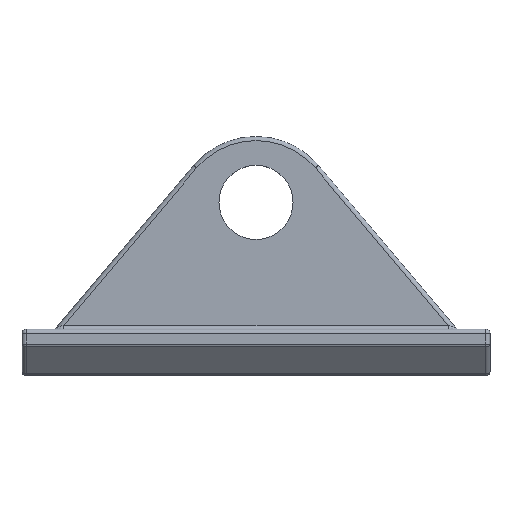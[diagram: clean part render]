
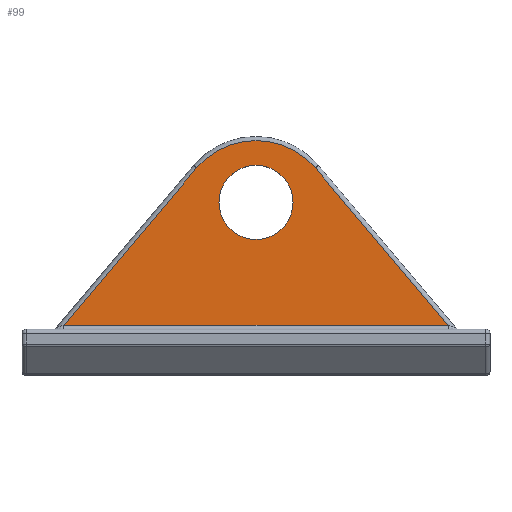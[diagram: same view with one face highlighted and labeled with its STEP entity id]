
A CAD part, top view. The second image highlights one B-rep face of the part: STEP entity #99.
In plain terms, the highlighted planar face has unit normal (0, 0, 1).
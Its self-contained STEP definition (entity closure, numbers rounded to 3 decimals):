
#77 = VERTEX_POINT ( 'NONE', #888 ) ;
#99 = ADVANCED_FACE ( 'NONE', ( #796, #1324 ), #530, .F. ) ;
#112 = LINE ( 'NONE', #1684, #513 ) ;
#173 = CARTESIAN_POINT ( 'NONE',  ( 23.9, 15.4, 2.8 ) ) ;
#234 = LINE ( 'NONE', #492, #569 ) ;
#256 = CIRCLE ( 'NONE', #503, 9.457 ) ;
#259 = VERTEX_POINT ( 'NONE', #173 ) ;
#333 = DIRECTION ( 'NONE',  ( 1., 0., 0. ) ) ;
#403 = AXIS2_PLACEMENT_3D ( 'NONE', #943, #820, #1086 ) ;
#412 = EDGE_CURVE ( 'NONE', #1368, #1284, #234, .T. ) ;
#427 = CARTESIAN_POINT ( 'NONE',  ( 15.918, 13.326, 2.8 ) ) ;
#436 = DIRECTION ( 'NONE',  ( -1., 0., 0. ) ) ;
#458 = ORIENTED_EDGE ( 'NONE', *, *, #1651, .T. ) ;
#481 = ORIENTED_EDGE ( 'NONE', *, *, #531, .F. ) ;
#492 = CARTESIAN_POINT ( 'NONE',  ( 52.8, 0.5, 2.8 ) ) ;
#503 = AXIS2_PLACEMENT_3D ( 'NONE', #1400, #1615, #436 ) ;
#513 = VECTOR ( 'NONE', #1565, 1000. ) ;
#530 = PLANE ( 'NONE',  #403 ) ;
#531 = EDGE_CURVE ( 'NONE', #77, #259, #1691, .T. ) ;
#541 = DIRECTION ( 'NONE',  ( 0., 0., 1. ) ) ;
#569 = VECTOR ( 'NONE', #333, 1000. ) ;
#587 = ORIENTED_EDGE ( 'NONE', *, *, #1371, .T. ) ;
#604 = EDGE_LOOP ( 'NONE', ( #1418, #587, #458, #1630 ) ) ;
#622 = CARTESIAN_POINT ( 'NONE',  ( 5.077, 0.5, 2.8 ) ) ;
#669 = DIRECTION ( 'NONE',  ( 1., 0., 0. ) ) ;
#775 = CARTESIAN_POINT ( 'NONE',  ( 51.723, 0.5, 2.8 ) ) ;
#783 = CARTESIAN_POINT ( 'NONE',  ( 28.4, 15.4, 2.8 ) ) ;
#796 = FACE_OUTER_BOUND ( 'NONE', #604, .T. ) ;
#820 = DIRECTION ( 'NONE',  ( 0., 0., -1. ) ) ;
#888 = CARTESIAN_POINT ( 'NONE',  ( 32.9, 15.4, 2.8 ) ) ;
#920 = CIRCLE ( 'NONE', #1512, 4.5 ) ;
#934 = CARTESIAN_POINT ( 'NONE',  ( 28.4, 15.4, 2.8 ) ) ;
#943 = CARTESIAN_POINT ( 'NONE',  ( 4., 23.4, 2.8 ) ) ;
#952 = EDGE_CURVE ( 'NONE', #259, #77, #920, .T. ) ;
#953 = CARTESIAN_POINT ( 'NONE',  ( 21.202, 19.576, 2.8 ) ) ;
#959 = DIRECTION ( 'NONE',  ( -0.646, -0.764, 0. ) ) ;
#966 = AXIS2_PLACEMENT_3D ( 'NONE', #934, #1451, #1435 ) ;
#1086 = DIRECTION ( 'NONE',  ( -1., 0., 0. ) ) ;
#1092 = LINE ( 'NONE', #427, #1608 ) ;
#1128 = VERTEX_POINT ( 'NONE', #1576 ) ;
#1155 = VERTEX_POINT ( 'NONE', #953 ) ;
#1284 = VERTEX_POINT ( 'NONE', #775 ) ;
#1324 = FACE_BOUND ( 'NONE', #1696, .T. ) ;
#1368 = VERTEX_POINT ( 'NONE', #622 ) ;
#1371 = EDGE_CURVE ( 'NONE', #1284, #1128, #112, .T. ) ;
#1400 = CARTESIAN_POINT ( 'NONE',  ( 28.4, 13.443, 2.8 ) ) ;
#1418 = ORIENTED_EDGE ( 'NONE', *, *, #412, .T. ) ;
#1420 = EDGE_CURVE ( 'NONE', #1155, #1368, #1092, .T. ) ;
#1435 = DIRECTION ( 'NONE',  ( 1., 0., 0. ) ) ;
#1451 = DIRECTION ( 'NONE',  ( 0., 0., 1. ) ) ;
#1512 = AXIS2_PLACEMENT_3D ( 'NONE', #783, #541, #669 ) ;
#1516 = ORIENTED_EDGE ( 'NONE', *, *, #952, .F. ) ;
#1565 = DIRECTION ( 'NONE',  ( -0.646, 0.764, 0. ) ) ;
#1576 = CARTESIAN_POINT ( 'NONE',  ( 35.599, 19.576, 2.8 ) ) ;
#1608 = VECTOR ( 'NONE', #959, 1000. ) ;
#1615 = DIRECTION ( 'NONE',  ( 0., 0., 1. ) ) ;
#1630 = ORIENTED_EDGE ( 'NONE', *, *, #1420, .T. ) ;
#1651 = EDGE_CURVE ( 'NONE', #1128, #1155, #256, .T. ) ;
#1684 = CARTESIAN_POINT ( 'NONE',  ( 35.598, 19.577, 2.8 ) ) ;
#1691 = CIRCLE ( 'NONE', #966, 4.5 ) ;
#1696 = EDGE_LOOP ( 'NONE', ( #481, #1516 ) ) ;
